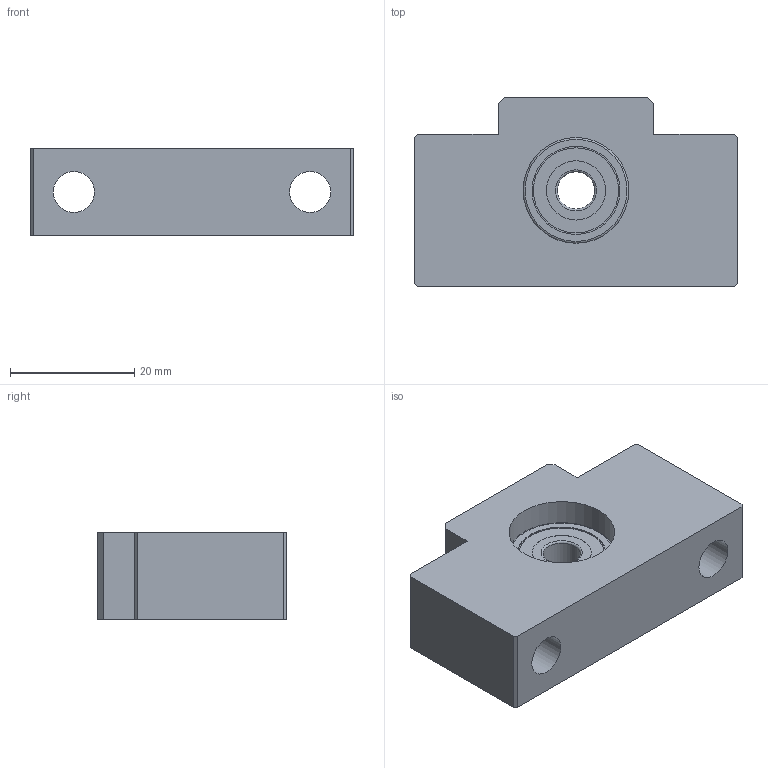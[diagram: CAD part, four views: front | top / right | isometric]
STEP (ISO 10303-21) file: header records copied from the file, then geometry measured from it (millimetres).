
FILE_DESCRIPTION(/* description */ ('STEP AP214'),/* implementation_level */ '2;1');
FILE_NAME(/* name */ 'EF8L',/* time_stamp */ '2026-09-17T13:08:06+02:00',/* author */ ('License CC BY-ND 4.0'),/* organization */ ('CADENAS'),/* preprocessor_version */ 'ST-DEVELOPER v20',/* originating_system */ 'PARTsolutions',/* authorisation */ ' ');
FILE_SCHEMA (('AUTOMOTIVE_DESIGN {1 0 10303 214 3 1 1}'));
Length unit declared in the file: millimetre
Products named in the file (3): EF8L; EF 8L Part1; EF 8L Part2
Assembly tree (2 placements, depth 2):
  EF8L
    EF 8L Part1
    EF 8L Part2
Bounding box: 52 x 30.5 x 14 mm (x, y, z)
Volume: 14784.8 mm3; surface area: 7463.1 mm2
Topology: 2 solids, 2 shells, 43 faces, 90 edges, 59 vertices
Faces by surface type: plane 26, cylinder 13, torus 4
Full cylindrical faces by diameter (mm): 6 x1, 6.6 x2, 9.52 x2, 11 x2, 13.69 x2, 14.15 x2, 17 x2
Entity records: 1147 total; most frequent: DIRECTION 194, CARTESIAN_POINT 176, ORIENTED_EDGE 144, EDGE_LOOP 76, FACE_BOUND 76, AXIS2_PLACEMENT_3D 76, EDGE_CURVE 72, VERTEX_POINT 58
